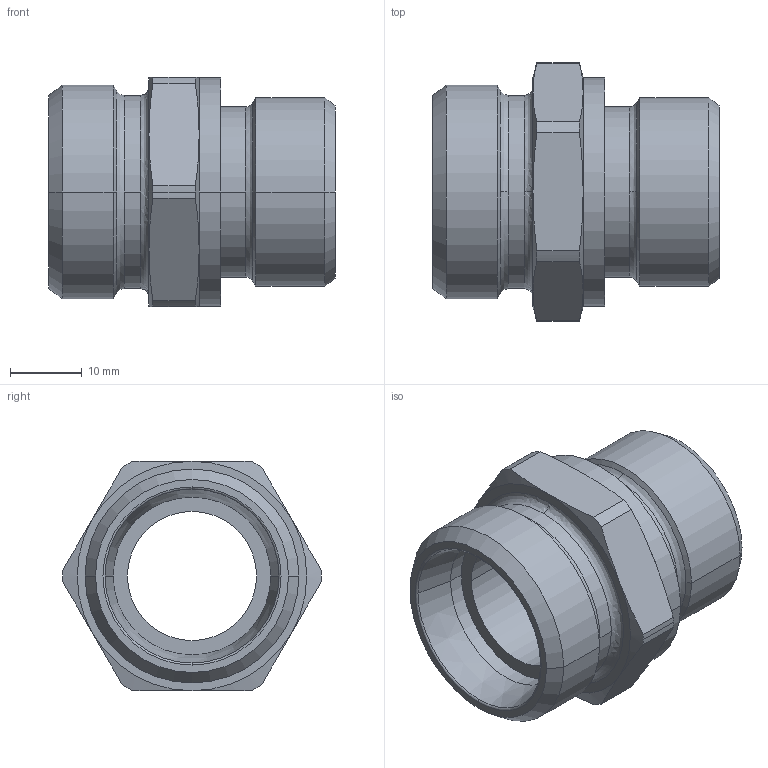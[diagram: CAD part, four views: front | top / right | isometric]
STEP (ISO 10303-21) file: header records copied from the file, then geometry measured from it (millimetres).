
FILE_DESCRIPTION((''),'2;1');
FILE_NAME('100510.stp','2007-10-30T14:17:20',(''),(''),'AutoCAD STEP 2000i','AutoCAD 2000i',', , ');
FILE_SCHEMA(('CONFIG_CONTROL_DESIGN'));
Length unit declared in the file: millimetre
Products named in the file (2): 100510.0; CHIAVE SMUSSATA#0
Assembly tree (1 placements, depth 2):
  100510.0
    CHIAVE SMUSSATA#0
Bounding box: 40 x 36 x 32 mm (x, y, z)
Volume: 13974.3 mm3; surface area: 7394.1 mm2
Topology: 1 solids, 1 shells, 75 faces, 185 edges, 117 vertices
Faces by surface type: cylinder 24, cone 24, plane 13, bspline 12, torus 2
Entity records: 2835 total; most frequent: CARTESIAN_POINT 955, DIRECTION 410, ORIENTED_EDGE 370, EDGE_CURVE 185, AXIS2_PLACEMENT_3D 184, CIRCLE 119, VERTEX_POINT 117, EDGE_LOOP 82
